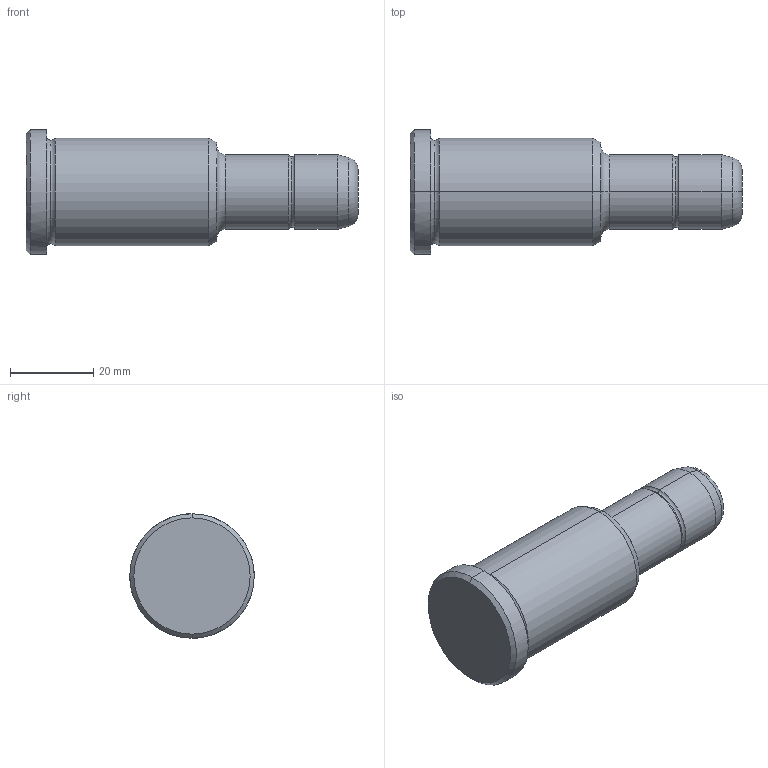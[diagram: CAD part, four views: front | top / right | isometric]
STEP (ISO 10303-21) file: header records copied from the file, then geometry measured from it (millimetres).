
FILE_DESCRIPTION(('CATIA V5 STEP Exchange'),'2;1');
FILE_NAME('C:\Users\Utente\Desktop\IO LAVORO\3D X SITO CF\X SITO\PLASTICA\351\351-18X46X80.stp','2021-08-19T12:39:04+00:00',('none'),('none'),'CATIA Version 5 Release 20 GA (IN-10)','CATIA V5 STEP AP203','none');
FILE_SCHEMA(('CONFIG_CONTROL_DESIGN'));
Length unit declared in the file: millimetre
Products named in the file (1): 351-18X46X80
Bounding box: 80 x 30 x 30 mm (x, y, z)
Volume: 33553.6 mm3; surface area: 6905.2 mm2
Topology: 1 solids, 1 shells, 30 faces, 86 edges, 60 vertices
Faces by surface type: torus 12, cylinder 8, cone 6, plane 4
Entity records: 1112 total; most frequent: CARTESIAN_POINT 289, ORIENTED_EDGE 172, DIRECTION 138, AXIS2_PLACEMENT_3D 95, EDGE_CURVE 86, CIRCLE 64, VERTEX_POINT 60, EDGE_LOOP 32
